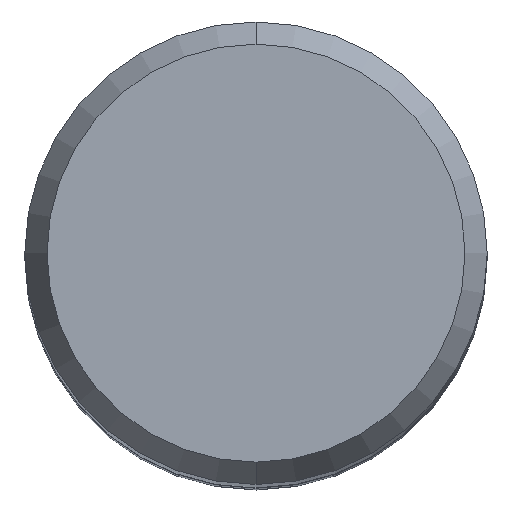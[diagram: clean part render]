
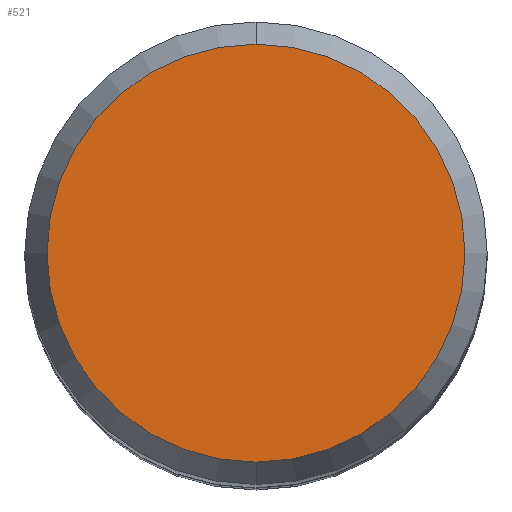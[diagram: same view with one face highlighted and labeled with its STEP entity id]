
A CAD part, top view. The second image highlights one B-rep face of the part: STEP entity #521.
In plain terms, the highlighted planar face has unit normal (0, 0, 1).
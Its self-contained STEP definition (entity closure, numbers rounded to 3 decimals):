
#291=VERTEX_POINT('',#705);
#419=VERTEX_POINT('',#850);
#501=EDGE_CURVE('',#291,#419,#942,.T.);
#521=ADVANCED_FACE('',(#963),#964,.T.);
#577=EDGE_CURVE('',#419,#291,#1026,.T.);
#705=CARTESIAN_POINT('',(0.0,5.423,0.0));
#850=CARTESIAN_POINT('',(0.,-5.423,0.0));
#942=CIRCLE('',#1648,5.423);
#963=FACE_OUTER_BOUND('',#1726,.T.);
#964=PLANE('',#1727);
#1026=CIRCLE('',#1828,5.423);
#1648=AXIS2_PLACEMENT_3D('',#2301,#2302,#2303);
#1726=EDGE_LOOP('',(#2321,#2322));
#1727=AXIS2_PLACEMENT_3D('',#2323,#2324,#2325);
#1828=AXIS2_PLACEMENT_3D('',#2395,#2396,#2397);
#2301=CARTESIAN_POINT('',(0.0,0.0,0.0));
#2302=DIRECTION('',(0.0,0.0,-1.0));
#2303=DIRECTION('',(0.0,1.0,0.0));
#2321=ORIENTED_EDGE('',*,*,#501,.F.);
#2322=ORIENTED_EDGE('',*,*,#577,.F.);
#2323=CARTESIAN_POINT('',(0.0,2.711,0.0));
#2324=DIRECTION('',(-0.0,0.0,1.0));
#2325=DIRECTION('',(0.0,-1.0,0.0));
#2395=CARTESIAN_POINT('',(0.0,0.0,0.0));
#2396=DIRECTION('',(0.0,0.0,-1.0));
#2397=DIRECTION('',(0.0,1.0,0.0));
